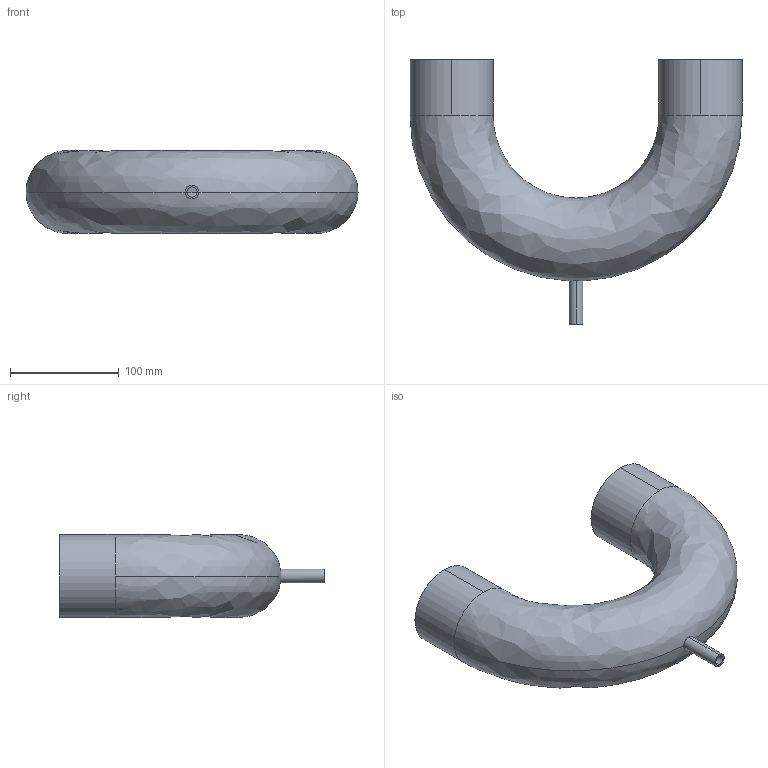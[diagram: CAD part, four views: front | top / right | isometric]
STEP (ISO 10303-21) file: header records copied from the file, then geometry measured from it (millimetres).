
FILE_DESCRIPTION (( 'STEP AP214' ), '1' );
FILE_NAME ('TE2UBWWW6L3.0x.5-...STEP', '2016-05-25T05:29:26', ( 'eran' ), ( '' ), 'SwSTEP 2.0', 'SolidWorks 2016', '' );
FILE_SCHEMA (( 'AUTOMOTIVE_DESIGN' ));
Length unit declared in the file: millimetre
Products named in the file (1): TE2UBWWW6L3.0x.5-..
Bounding box: 304.8 x 242.9 x 76.2 mm (x, y, z)
Volume: 180200.4 mm3; surface area: 219246.9 mm2
Topology: 1 solids, 1 shells, 19 faces, 54 edges, 36 vertices
Faces by surface type: cylinder 12, bspline 4, plane 3
Entity records: 864 total; most frequent: CARTESIAN_POINT 322, DIRECTION 112, ORIENTED_EDGE 108, EDGE_CURVE 54, AXIS2_PLACEMENT_3D 50, VERTEX_POINT 36, CIRCLE 34, EDGE_LOOP 22
